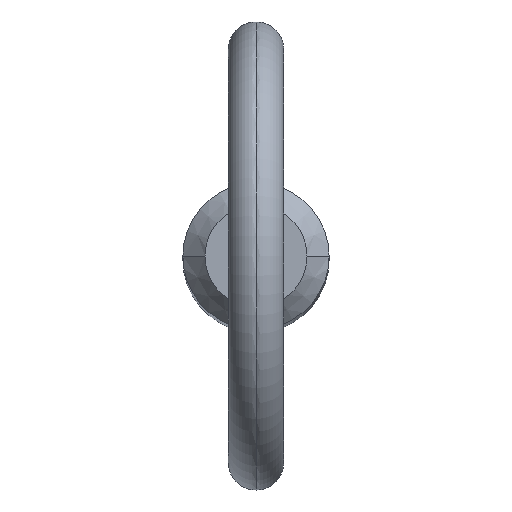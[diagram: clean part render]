
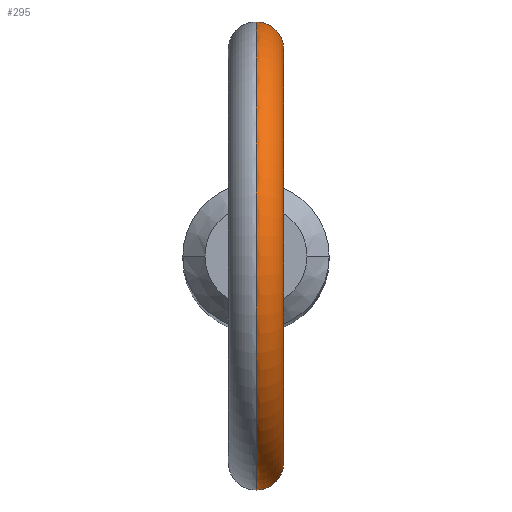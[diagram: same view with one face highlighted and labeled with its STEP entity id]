
A CAD part, top view. The second image highlights one B-rep face of the part: STEP entity #295.
In plain terms, the highlighted toroidal (fillet/blend) face has major radius 11.2 mm and minor radius 1.5 mm.
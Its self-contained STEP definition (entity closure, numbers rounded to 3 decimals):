
#9 = CARTESIAN_POINT ( 'NONE',  ( 0., 3.965, 89.535 ) ) ;
#23 = CARTESIAN_POINT ( 'NONE',  ( 1.488, 3.675, 91.305 ) ) ;
#25 = CARTESIAN_POINT ( 'NONE',  ( 1.499, -3.671, 90.897 ) ) ;
#27 = CARTESIAN_POINT ( 'NONE',  ( 0.927, 3.858, 92.367 ) ) ;
#37 = B_SPLINE_CURVE_WITH_KNOTS ( 'NONE', 3,
 ( #62, #217, #175, #98, #139, #136, #367, #224, #173, #261, #494, #501, #334, #298, #25, #262, #493, #101, #374, #335, #336, #213, #134, #59, #410, #60 ),
 .UNSPECIFIED., .F., .F.,
 ( 4, 2, 2, 2, 2, 2, 2, 2, 2, 2, 2, 2, 4 ),
 ( 0.004, 0.005, 0.005, 0.005, 0.006, 0.006, 0.007, 0.007, 0.007, 0.008, 0.008, 0.008, 0.009 ),
 .UNSPECIFIED. ) ;
#48 = CARTESIAN_POINT ( 'NONE',  ( 0.41, 3.948, 89.574 ) ) ;
#58 = VERTEX_POINT ( 'NONE', #121 ) ;
#59 = CARTESIAN_POINT ( 'NONE',  ( 0.409, -3.948, 89.574 ) ) ;
#60 = CARTESIAN_POINT ( 'NONE',  ( 0., -3.965, 89.535 ) ) ;
#62 = CARTESIAN_POINT ( 'NONE',  ( 0., -3.965, 92.747 ) ) ;
#76 = CARTESIAN_POINT ( 'NONE',  ( 0., 0., 101.6 ) ) ;
#80 = VERTEX_POINT ( 'NONE', #130 ) ;
#88 = CARTESIAN_POINT ( 'NONE',  ( 1.026, 3.831, 89.913 ) ) ;
#97 = EDGE_LOOP ( 'NONE', ( #348, #112, #400, #223 ) ) ;
#98 = CARTESIAN_POINT ( 'NONE',  ( 0.404, -3.946, 92.682 ) ) ;
#100 = CARTESIAN_POINT ( 'NONE',  ( 0.206, 3.965, 92.747 ) ) ;
#101 = CARTESIAN_POINT ( 'NONE',  ( 1.346, -3.73, 90.308 ) ) ;
#112 = ORIENTED_EDGE ( 'NONE', *, *, #299, .T. ) ;
#114 = EDGE_CURVE ( 'NONE', #58, #513, #37, .T. ) ;
#121 = CARTESIAN_POINT ( 'NONE',  ( 0., -3.965, 92.747 ) ) ;
#123 = CARTESIAN_POINT ( 'NONE',  ( 0., -3.965, 89.535 ) ) ;
#130 = CARTESIAN_POINT ( 'NONE',  ( 0., 3.965, 92.747 ) ) ;
#134 = CARTESIAN_POINT ( 'NONE',  ( 0.693, -3.905, 89.69 ) ) ;
#136 = CARTESIAN_POINT ( 'NONE',  ( 0.77, -3.894, 92.5 ) ) ;
#138 = CARTESIAN_POINT ( 'NONE',  ( 1.291, 3.75, 91.884 ) ) ;
#139 = CARTESIAN_POINT ( 'NONE',  ( 0.498, -3.935, 92.644 ) ) ;
#141 = CARTESIAN_POINT ( 'NONE',  ( 0., 3.965, 92.747 ) ) ;
#144 = CARTESIAN_POINT ( 'NONE',  ( 1.499, 3.671, 90.894 ) ) ;
#173 = CARTESIAN_POINT ( 'NONE',  ( 1.291, -3.75, 91.883 ) ) ;
#175 = CARTESIAN_POINT ( 'NONE',  ( 0.205, -3.961, 92.734 ) ) ;
#179 = CARTESIAN_POINT ( 'NONE',  ( 0., 3.965, 89.535 ) ) ;
#184 = DIRECTION ( 'NONE',  ( 0., 0., -1. ) ) ;
#193 = TOROIDAL_SURFACE ( 'NONE', #316, 11.2, 1.5 ) ;
#213 = CARTESIAN_POINT ( 'NONE',  ( 0.782, -3.888, 89.737 ) ) ;
#217 = CARTESIAN_POINT ( 'NONE',  ( 0.102, -3.965, 92.747 ) ) ;
#218 = CARTESIAN_POINT ( 'NONE',  ( 1.503, 3.669, 90.998 ) ) ;
#222 = CARTESIAN_POINT ( 'NONE',  ( 1.344, 3.731, 90.303 ) ) ;
#223 = ORIENTED_EDGE ( 'NONE', *, *, #265, .F. ) ;
#224 = CARTESIAN_POINT ( 'NONE',  ( 1.186, -3.786, 92.059 ) ) ;
#227 = DIRECTION ( 'NONE',  ( 1., 0., 0. ) ) ;
#235 = DIRECTION ( 'NONE',  ( 1., 0., 0. ) ) ;
#238 = FACE_OUTER_BOUND ( 'NONE', #97, .T. ) ;
#259 = CARTESIAN_POINT ( 'NONE',  ( 0.411, 3.948, 92.691 ) ) ;
#261 = CARTESIAN_POINT ( 'NONE',  ( 1.404, -3.708, 91.601 ) ) ;
#262 = CARTESIAN_POINT ( 'NONE',  ( 1.471, -3.682, 90.694 ) ) ;
#265 = EDGE_CURVE ( 'NONE', #80, #58, #487, .T. ) ;
#281 = EDGE_CURVE ( 'NONE', #303, #80, #470, .T. ) ;
#286 = CARTESIAN_POINT ( 'NONE',  ( 0.204, 3.965, 89.535 ) ) ;
#293 = AXIS2_PLACEMENT_3D ( 'NONE', #440, #325, #361 ) ;
#295 = ADVANCED_FACE ( 'NONE', ( #238 ), #193, .T. ) ;
#298 = CARTESIAN_POINT ( 'NONE',  ( 1.503, -3.669, 90.999 ) ) ;
#299 = EDGE_CURVE ( 'NONE', #303, #513, #395, .T. ) ;
#303 = VERTEX_POINT ( 'NONE', #179 ) ;
#316 = AXIS2_PLACEMENT_3D ( 'NONE', #500, #235, #184 ) ;
#325 = DIRECTION ( 'NONE',  ( 1., 0., 0. ) ) ;
#328 = CARTESIAN_POINT ( 'NONE',  ( 0.949, 3.851, 89.849 ) ) ;
#334 = CARTESIAN_POINT ( 'NONE',  ( 1.493, -3.673, 91.204 ) ) ;
#335 = CARTESIAN_POINT ( 'NONE',  ( 1.028, -3.83, 89.915 ) ) ;
#336 = CARTESIAN_POINT ( 'NONE',  ( 0.949, -3.851, 89.849 ) ) ;
#348 = ORIENTED_EDGE ( 'NONE', *, *, #281, .F. ) ;
#361 = DIRECTION ( 'NONE',  ( 0., 0., -1. ) ) ;
#363 = CARTESIAN_POINT ( 'NONE',  ( 1.236, 3.77, 90.129 ) ) ;
#367 = CARTESIAN_POINT ( 'NONE',  ( 0.925, -3.858, 92.368 ) ) ;
#371 = CARTESIAN_POINT ( 'NONE',  ( 1.441, 3.695, 91.508 ) ) ;
#373 = CARTESIAN_POINT ( 'NONE',  ( 1.447, 3.692, 90.593 ) ) ;
#374 = CARTESIAN_POINT ( 'NONE',  ( 1.237, -3.77, 90.131 ) ) ;
#394 = CARTESIAN_POINT ( 'NONE',  ( 0.691, 3.905, 89.689 ) ) ;
#395 = CIRCLE ( 'NONE', #475, 12.7 ) ;
#400 = ORIENTED_EDGE ( 'NONE', *, *, #114, .F. ) ;
#409 = CARTESIAN_POINT ( 'NONE',  ( 1.185, 3.786, 92.06 ) ) ;
#410 = CARTESIAN_POINT ( 'NONE',  ( 0.205, -3.965, 89.535 ) ) ;
#415 = CARTESIAN_POINT ( 'NONE',  ( 1.47, 3.682, 90.692 ) ) ;
#439 = CARTESIAN_POINT ( 'NONE',  ( 0.782, 3.888, 89.737 ) ) ;
#440 = CARTESIAN_POINT ( 'NONE',  ( 0., 0., 101.6 ) ) ;
#465 = DIRECTION ( 'NONE',  ( 0., 0., -1. ) ) ;
#470 = B_SPLINE_CURVE_WITH_KNOTS ( 'NONE', 3,
 ( #9, #286, #48, #394, #439, #328, #88, #363, #222, #373, #415, #144, #218, #23, #371, #138, #409, #27, #497, #259, #100, #141 ),
 .UNSPECIFIED., .F., .F.,
 ( 4, 2, 2, 2, 2, 2, 2, 2, 2, 2, 4 ),
 ( 0.001, 0.001, 0.002, 0.002, 0.003, 0.003, 0.003, 0.004, 0.004, 0.005, 0.006 ),
 .UNSPECIFIED. ) ;
#475 = AXIS2_PLACEMENT_3D ( 'NONE', #76, #227, #465 ) ;
#487 = CIRCLE ( 'NONE', #293, 9.7 ) ;
#493 = CARTESIAN_POINT ( 'NONE',  ( 1.447, -3.692, 90.593 ) ) ;
#494 = CARTESIAN_POINT ( 'NONE',  ( 1.434, -3.697, 91.505 ) ) ;
#497 = CARTESIAN_POINT ( 'NONE',  ( 0.769, 3.894, 92.501 ) ) ;
#500 = CARTESIAN_POINT ( 'NONE',  ( 0., 0., 101.6 ) ) ;
#501 = CARTESIAN_POINT ( 'NONE',  ( 1.479, -3.679, 91.307 ) ) ;
#513 = VERTEX_POINT ( 'NONE', #123 ) ;
